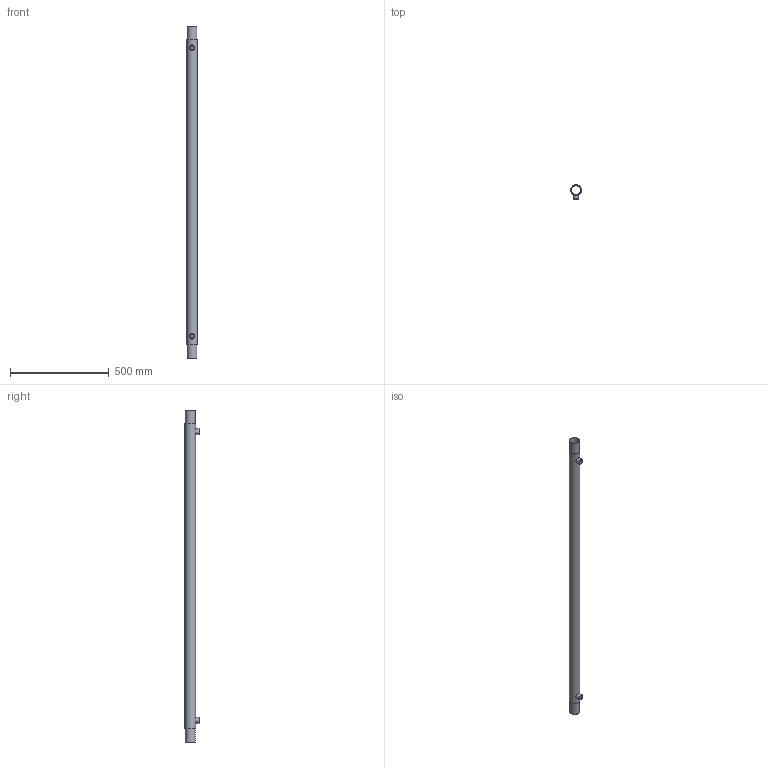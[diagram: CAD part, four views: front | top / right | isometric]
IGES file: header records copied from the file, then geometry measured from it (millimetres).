
Global section: file name: QB1-16; native system: unknown; preprocessor: unknown; author: unknown; organization: unknown; date: 20250722.102711; units: millimetre
Bounding box: 54 x 71.98 x 1680 mm (x, y, z)
Volume: 903979.9 mm3; surface area: 1027749.9 mm2
Topology: 4 solids, 4 shells, 20 faces, 38 edges, 28 vertices
Faces by surface type: bspline 20
